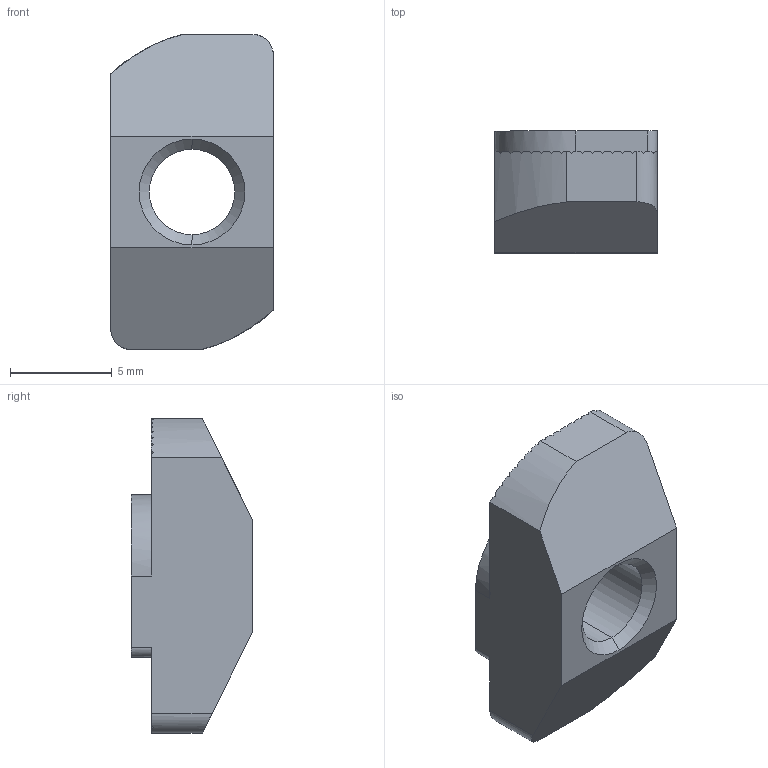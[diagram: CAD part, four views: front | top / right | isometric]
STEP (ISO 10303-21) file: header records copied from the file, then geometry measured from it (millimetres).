
FILE_DESCRIPTION (( 'STEP AP203' ), '1' );
FILE_NAME ('LIMA-RN5-83030.STEP', '2018-03-15T12:24:15', ( '' ), ( '' ), 'SwSTEP 2.0', 'SolidWorks 2013', '' );
FILE_SCHEMA (( 'CONFIG_CONTROL_DESIGN' ));
Length unit declared in the file: millimetre
Products named in the file (1): LIMA-RN5-83030
Bounding box: 8 x 6 x 15.5 mm (x, y, z)
Volume: 466.9 mm3; surface area: 487.2 mm2
Topology: 1 solids, 1 shells, 122 faces, 356 edges, 236 vertices
Faces by surface type: plane 108, cylinder 10, cone 4
Entity records: 4085 total; most frequent: CARTESIAN_POINT 943, ORIENTED_EDGE 712, DIRECTION 582, EDGE_CURVE 356, VERTEX_POINT 236, VECTOR 224, LINE 224, AXIS2_PLACEMENT_3D 179
